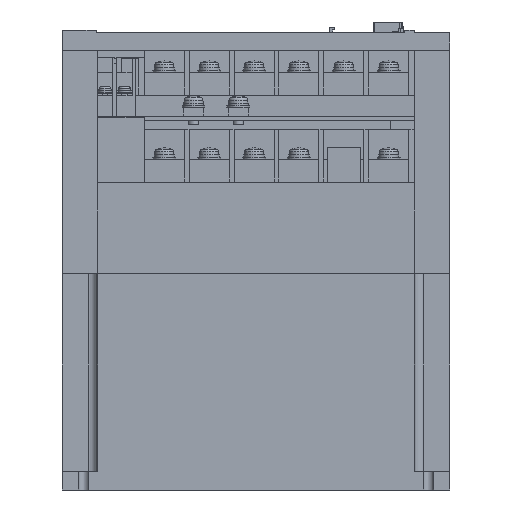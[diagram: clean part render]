
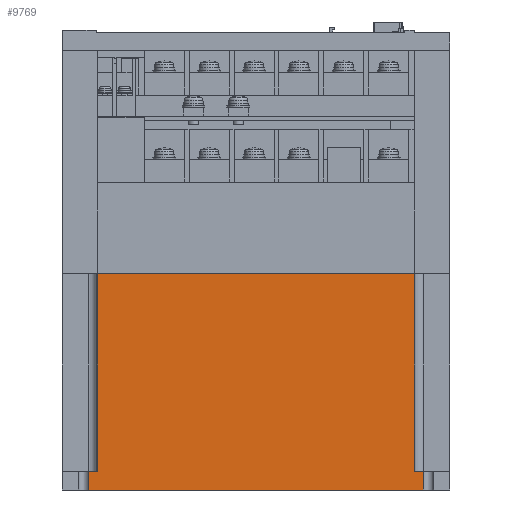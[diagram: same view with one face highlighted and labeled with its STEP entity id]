
A CAD part, front view. The second image highlights one B-rep face of the part: STEP entity #9769.
In plain terms, the highlighted planar face has unit normal (0, -1, 0).
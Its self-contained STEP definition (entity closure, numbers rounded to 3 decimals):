
#8863=DIRECTION('',(1.,0.,0.));
#8864=VECTOR('',#8863,190.);
#8865=CARTESIAN_POINT('',(-95.,-200.,0.));
#8866=LINE('',#8865,#8864);
#9011=DIRECTION('',(-1.,0.,0.));
#9012=VECTOR('',#9011,180.);
#9013=CARTESIAN_POINT('',(90.,-200.,123.));
#9014=LINE('',#9013,#9012);
#9043=DIRECTION('',(0.,0.,-1.));
#9044=VECTOR('',#9043,112.5);
#9045=CARTESIAN_POINT('',(90.,-200.,123.));
#9046=LINE('',#9045,#9044);
#9047=DIRECTION('',(1.,0.,0.));
#9048=VECTOR('',#9047,5.);
#9049=CARTESIAN_POINT('',(90.,-200.,10.5));
#9050=LINE('',#9049,#9048);
#9051=DIRECTION('',(0.,0.,1.));
#9052=VECTOR('',#9051,10.5);
#9053=CARTESIAN_POINT('',(95.,-200.,0.));
#9054=LINE('',#9053,#9052);
#9055=DIRECTION('',(0.,0.,1.));
#9056=VECTOR('',#9055,10.5);
#9057=CARTESIAN_POINT('',(-95.,-200.,0.));
#9058=LINE('',#9057,#9056);
#9059=DIRECTION('',(1.,0.,0.));
#9060=VECTOR('',#9059,5.);
#9061=CARTESIAN_POINT('',(-95.,-200.,10.5));
#9062=LINE('',#9061,#9060);
#9063=DIRECTION('',(0.,0.,-1.));
#9064=VECTOR('',#9063,112.5);
#9065=CARTESIAN_POINT('',(-90.,-200.,123.));
#9066=LINE('',#9065,#9064);
#9374=CARTESIAN_POINT('',(-90.,-200.,10.5));
#9375=VERTEX_POINT('',#9374);
#9376=CARTESIAN_POINT('',(90.,-200.,10.5));
#9377=VERTEX_POINT('',#9376);
#9398=CARTESIAN_POINT('',(-95.,-200.,0.));
#9400=VERTEX_POINT('',#9398);
#9402=CARTESIAN_POINT('',(95.,-200.,0.));
#9404=VERTEX_POINT('',#9402);
#9412=CARTESIAN_POINT('',(-95.,-200.,10.5));
#9413=VERTEX_POINT('',#9412);
#9414=CARTESIAN_POINT('',(95.,-200.,10.5));
#9415=VERTEX_POINT('',#9414);
#9470=CARTESIAN_POINT('',(-90.,-200.,123.));
#9472=VERTEX_POINT('',#9470);
#9479=CARTESIAN_POINT('',(90.,-200.,123.));
#9481=VERTEX_POINT('',#9479);
#9750=CARTESIAN_POINT('',(-110.,-200.,0.));
#9751=DIRECTION('',(0.,-1.,0.));
#9752=DIRECTION('',(1.,0.,0.));
#9753=AXIS2_PLACEMENT_3D('',#9750,#9751,#9752);
#9754=PLANE('',#9753);
#9755=ORIENTED_EDGE('',*,*,#9680,.F.);
#9757=ORIENTED_EDGE('',*,*,#9756,.T.);
#9758=ORIENTED_EDGE('',*,*,#9641,.T.);
#9760=ORIENTED_EDGE('',*,*,#9759,.F.);
#9761=ORIENTED_EDGE('',*,*,#9501,.F.);
#9763=ORIENTED_EDGE('',*,*,#9762,.T.);
#9764=ORIENTED_EDGE('',*,*,#9625,.T.);
#9766=ORIENTED_EDGE('',*,*,#9765,.F.);
#9767=EDGE_LOOP('',(#9755,#9757,#9758,#9760,#9761,#9763,#9764,#9766));
#9768=FACE_OUTER_BOUND('',#9767,.F.);
#9769=ADVANCED_FACE('',(#9768),#9754,.T.);
#9501=EDGE_CURVE('',#9400,#9404,#8866,.T.);
#9625=EDGE_CURVE('',#9413,#9375,#9062,.T.);
#9641=EDGE_CURVE('',#9377,#9415,#9050,.T.);
#9680=EDGE_CURVE('',#9481,#9472,#9014,.T.);
#9756=EDGE_CURVE('',#9481,#9377,#9046,.T.);
#9759=EDGE_CURVE('',#9404,#9415,#9054,.T.);
#9762=EDGE_CURVE('',#9400,#9413,#9058,.T.);
#9765=EDGE_CURVE('',#9472,#9375,#9066,.T.);
